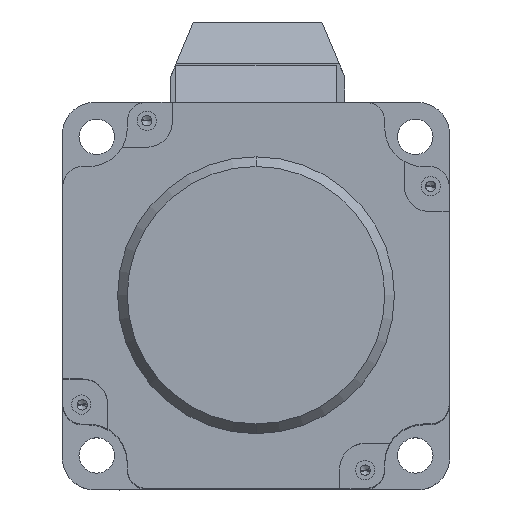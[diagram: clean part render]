
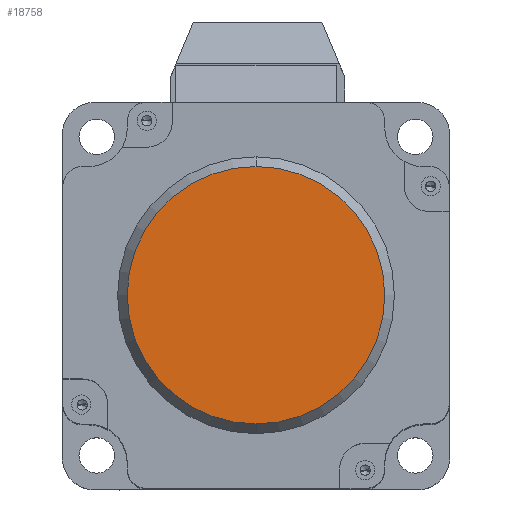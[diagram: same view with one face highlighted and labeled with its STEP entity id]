
A CAD part, top view. The second image highlights one B-rep face of the part: STEP entity #18758.
In plain terms, the highlighted planar face has unit normal (0, 0, 1).
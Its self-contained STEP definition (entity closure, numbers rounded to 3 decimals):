
#648 = DIRECTION ( 'NONE',  ( 0., -1., 0. ) ) ;
#925 = DIRECTION ( 'NONE',  ( 0., 0., -1. ) ) ;
#1287 = CARTESIAN_POINT ( 'NONE',  ( 0., -20., 20. ) ) ;
#1501 = EDGE_CURVE ( 'NONE', #2714, #7090, #7584, .T. ) ;
#2652 = CARTESIAN_POINT ( 'NONE',  ( 0., 0., 20. ) ) ;
#2714 = VERTEX_POINT ( 'NONE', #3350 ) ;
#2777 = DIRECTION ( 'NONE',  ( 0., 1., 0. ) ) ;
#3350 = CARTESIAN_POINT ( 'NONE',  ( 0., 20., 20. ) ) ;
#3701 = AXIS2_PLACEMENT_3D ( 'NONE', #18921, #925, #11410 ) ;
#5302 = DIRECTION ( 'NONE',  ( 0., 0., 1. ) ) ;
#6545 = ORIENTED_EDGE ( 'NONE', *, *, #11082, .F. ) ;
#7090 = VERTEX_POINT ( 'NONE', #1287 ) ;
#7584 = CIRCLE ( 'NONE', #17885, 20. ) ;
#9488 = CIRCLE ( 'NONE', #3701, 20. ) ;
#11082 = EDGE_CURVE ( 'NONE', #7090, #2714, #9488, .T. ) ;
#11410 = DIRECTION ( 'NONE',  ( 0., 1., 0. ) ) ;
#12596 = AXIS2_PLACEMENT_3D ( 'NONE', #18721, #5302, #648 ) ;
#12789 = PLANE ( 'NONE',  #12596 ) ;
#13918 = FACE_OUTER_BOUND ( 'NONE', #16442, .T. ) ;
#14797 = ORIENTED_EDGE ( 'NONE', *, *, #1501, .F. ) ;
#16096 = DIRECTION ( 'NONE',  ( 0., 0., -1. ) ) ;
#16442 = EDGE_LOOP ( 'NONE', ( #14797, #6545 ) ) ;
#17885 = AXIS2_PLACEMENT_3D ( 'NONE', #2652, #16096, #2777 ) ;
#18721 = CARTESIAN_POINT ( 'NONE',  ( 0., 0., 20. ) ) ;
#18758 = ADVANCED_FACE ( 'NONE', ( #13918 ), #12789, .T. ) ;
#18921 = CARTESIAN_POINT ( 'NONE',  ( 0., 0., 20. ) ) ;
